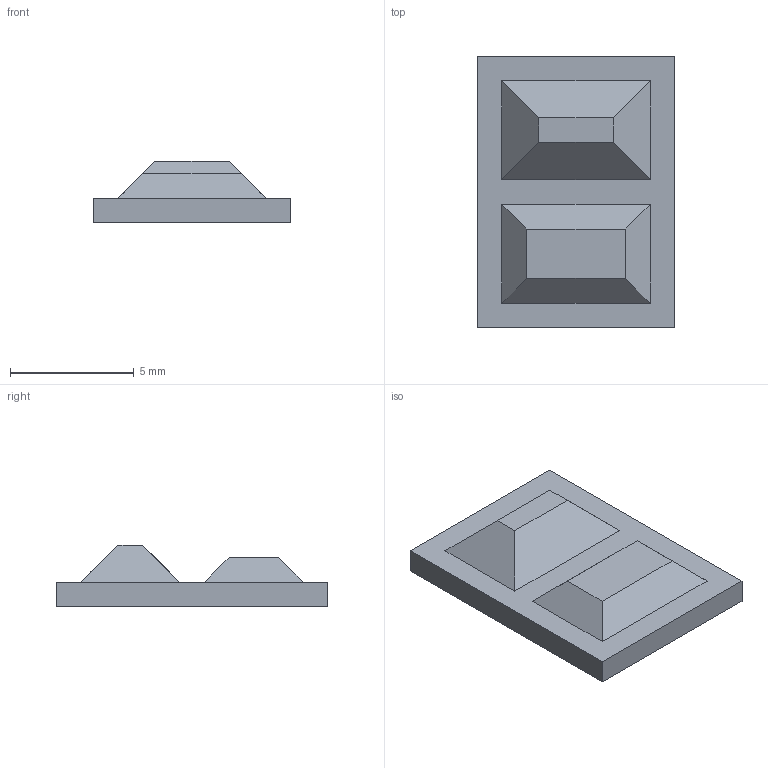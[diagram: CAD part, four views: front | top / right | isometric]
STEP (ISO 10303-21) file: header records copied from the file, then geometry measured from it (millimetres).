
FILE_DESCRIPTION(('FreeCAD Model'),'2;1');
FILE_NAME('C:/Users/angotn/Documents/EURESYS/EASY3D/TRIDIM/Model_CAO/TruncatedDoublePyramidsModel.step','2019-01-16T14:45:00',('Author'), (''),'Open CASCADE STEP processor 6.8','FreeCAD','Unknown');
FILE_SCHEMA(('AUTOMOTIVE_DESIGN_CC2 { 1 2 10303 214 -1 1 5 4 }'));
Length unit declared in the file: millimetre
Products named in the file (1): TruncatedDoublePyramids
Bounding box: 8 x 11 x 2.5 mm (x, y, z)
Volume: 121.3 mm3; surface area: 325.3 mm2
Topology: 3 solids, 3 shells, 18 faces, 36 edges, 24 vertices
Faces by surface type: plane 10, bspline 8
Entity records: 947 total; most frequent: CARTESIAN_POINT 191, DIRECTION 114, LINE 92, VECTOR 92, ORIENTED_EDGE 72, PCURVE 72, DEFINITIONAL_REPRESENTATION 72, EDGE_CURVE 36
